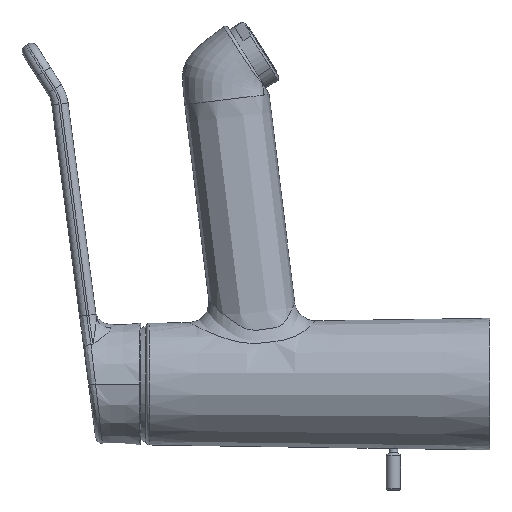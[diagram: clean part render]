
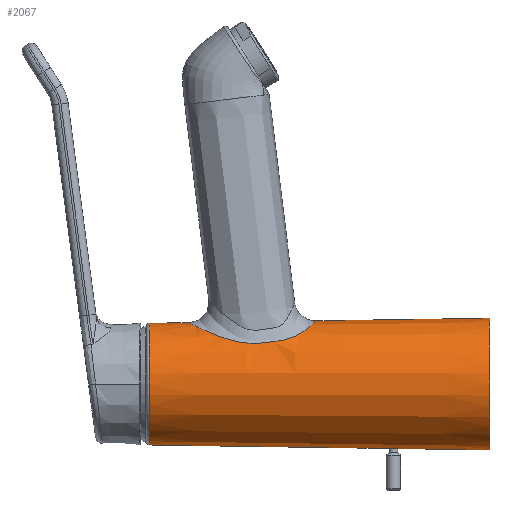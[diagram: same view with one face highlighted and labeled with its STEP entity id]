
A CAD part, left-side view. The second image highlights one B-rep face of the part: STEP entity #2067.
In plain terms, the highlighted conical face has half-angle 0.836 degrees and reference radius 22.132 mm.
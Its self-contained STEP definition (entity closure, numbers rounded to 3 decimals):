
#1=CARTESIAN_POINT('',(0.,35.199,-22.487));
#25=CARTESIAN_POINT('',(0.,32.199,-22.53));
#27=DIRECTION('',(0.,1.,0.015));
#28=VECTOR('',#27,32.203);
#29=CARTESIAN_POINT('',(0.,0.,-23.));
#30=LINE('',#29,#28);
#85=DIRECTION('',(0.,1.,0.015));
#86=VECTOR('',#85,83.824);
#87=CARTESIAN_POINT('',(0.,35.199,-22.487));
#88=LINE('',#87,#86);
#107=CARTESIAN_POINT('',(0.,32.199,-22.53));
#108=CARTESIAN_POINT('',(-0.071,32.199,
-22.53));
#109=CARTESIAN_POINT('',(-0.213,32.209,
-22.53));
#110=CARTESIAN_POINT('',(-0.422,32.255,
-22.526));
#111=CARTESIAN_POINT('',(-0.622,32.329,
-22.52));
#112=CARTESIAN_POINT('',(-0.811,32.431,
-22.513));
#113=CARTESIAN_POINT('',(-0.982,32.559,
-22.504));
#114=CARTESIAN_POINT('',(-1.135,32.711,-22.495));
#115=CARTESIAN_POINT('',(-1.263,32.881,-22.485));
#116=CARTESIAN_POINT('',(-1.367,33.069,-22.476));
#117=CARTESIAN_POINT('',(-1.442,33.269,-22.469));
#118=CARTESIAN_POINT('',(-1.489,33.479,-22.462));
#119=CARTESIAN_POINT('',(-1.505,33.696,-22.458));
#120=CARTESIAN_POINT('',(-1.49,33.912,-22.456));
#121=CARTESIAN_POINT('',(-1.445,34.12,-22.456));
#122=CARTESIAN_POINT('',(-1.371,34.32,-22.458));
#123=CARTESIAN_POINT('',(-1.269,34.509,-22.461));
#124=CARTESIAN_POINT('',(-1.142,34.68,-22.465));
#125=CARTESIAN_POINT('',(-0.99,34.833,
-22.47));
#126=CARTESIAN_POINT('',(-0.82,34.961,
-22.475));
#127=CARTESIAN_POINT('',(-0.631,35.066,
-22.48));
#128=CARTESIAN_POINT('',(-0.427,35.143,
-22.484));
#129=CARTESIAN_POINT('',(-0.214,35.189,
-22.486));
#130=CARTESIAN_POINT('',(-0.071,35.199,
-22.487));
#131=CARTESIAN_POINT('',(0.,35.199,-22.487));
#133=CARTESIAN_POINT('',(0.,119.015,0.));
#134=DIRECTION('',(0.,-1.,0.));
#135=DIRECTION('',(0.,0.,1.));
#136=AXIS2_PLACEMENT_3D('',#133,#134,#135);
#138=DIRECTION('',(0.,1.,-0.015));
#139=VECTOR('',#138,13.964);
#140=CARTESIAN_POINT('',(0.,105.052,
21.468));
#141=LINE('',#140,#139);
#142=CARTESIAN_POINT('',(0.,61.099,22.109));
#143=CARTESIAN_POINT('',(-0.544,61.117,22.109));
#144=CARTESIAN_POINT('',(-1.595,61.161,22.068));
#145=CARTESIAN_POINT('',(-3.037,61.283,21.912));
#146=CARTESIAN_POINT('',(-4.405,61.467,21.674));
#147=CARTESIAN_POINT('',(-5.709,61.719,21.363));
#148=CARTESIAN_POINT('',(-6.934,62.037,20.991));
#149=CARTESIAN_POINT('',(-8.059,62.416,20.578));
#150=CARTESIAN_POINT('',(-9.096,62.86,20.133));
#151=CARTESIAN_POINT('',(-10.05,63.368,19.665));
#152=CARTESIAN_POINT('',(-10.926,63.944,19.181));
#153=CARTESIAN_POINT('',(-11.727,64.586,18.69));
#154=CARTESIAN_POINT('',(-12.455,65.295,18.199));
#155=CARTESIAN_POINT('',(-13.098,66.056,17.727));
#156=CARTESIAN_POINT('',(-13.7,66.921,17.25));
#157=CARTESIAN_POINT('',(-14.242,67.873,16.786));
#158=CARTESIAN_POINT('',(-14.718,68.905,16.349));
#159=CARTESIAN_POINT('',(-15.122,70.003,15.953));
#160=CARTESIAN_POINT('',(-15.454,71.164,15.607));
#161=CARTESIAN_POINT('',(-15.731,72.44,15.301));
#162=CARTESIAN_POINT('',(-15.967,74.008,15.02));
#163=CARTESIAN_POINT('',(-16.126,75.616,14.814));
#164=CARTESIAN_POINT('',(-16.251,77.011,14.647));
#165=CARTESIAN_POINT('',(-16.387,78.65,14.459));
#166=CARTESIAN_POINT('',(-16.488,80.561,14.3));
#167=CARTESIAN_POINT('',(-16.5,82.474,14.244));
#168=CARTESIAN_POINT('',(-16.424,84.171,14.293));
#169=CARTESIAN_POINT('',(-16.271,85.804,14.432));
#170=CARTESIAN_POINT('',(-16.036,87.39,14.659));
#171=CARTESIAN_POINT('',(-15.721,88.928,14.965));
#172=CARTESIAN_POINT('',(-15.28,90.579,15.384));
#173=CARTESIAN_POINT('',(-14.678,92.361,15.927));
#174=CARTESIAN_POINT('',(-13.907,94.216,16.574));
#175=CARTESIAN_POINT('',(-12.968,96.075,17.287));
#176=CARTESIAN_POINT('',(-11.97,97.73,17.962));
#177=CARTESIAN_POINT('',(-10.989,99.105,18.555));
#178=CARTESIAN_POINT('',(-9.967,100.321,19.103));
#179=CARTESIAN_POINT('',(-8.927,101.372,19.594));
#180=CARTESIAN_POINT('',(-7.895,102.258,20.017));
#181=CARTESIAN_POINT('',(-6.883,102.991,20.375));
#182=CARTESIAN_POINT('',(-5.899,103.585,20.672));
#183=CARTESIAN_POINT('',(-4.945,104.057,20.913));
#184=CARTESIAN_POINT('',(-4.021,104.419,21.104));
#185=CARTESIAN_POINT('',(-3.13,104.683,21.251));
#186=CARTESIAN_POINT('',(-2.182,104.88,21.367));
#187=CARTESIAN_POINT('',(-1.175,105.007,21.445));
#188=CARTESIAN_POINT('',(-0.405,105.045,21.468));
#189=CARTESIAN_POINT('',(0.,105.052,
21.468));
#191=DIRECTION('',(0.,1.,-0.015));
#192=VECTOR('',#191,61.106);
#193=CARTESIAN_POINT('',(0.,0.,23.));
#194=LINE('',#193,#192);
#1696=CARTESIAN_POINT('',(0.,0.,0.));
#1697=DIRECTION('',(0.,1.,0.));
#1698=DIRECTION('',(0.,0.,-1.));
#1699=AXIS2_PLACEMENT_3D('',#1696,#1697,#1698);
#1779=CARTESIAN_POINT('',(0.,0.,23.));
#1780=CARTESIAN_POINT('',(0.,0.,-23.));
#1781=VERTEX_POINT('',#1779);
#1782=VERTEX_POINT('',#1780);
#1783=VERTEX_POINT('',#142);
#1784=VERTEX_POINT('',#189);
#1787=CARTESIAN_POINT('',(0.,119.015,21.264));
#1788=CARTESIAN_POINT('',(0.,119.015,-21.264));
#1789=VERTEX_POINT('',#1787);
#1790=VERTEX_POINT('',#1788);
#1890=VERTEX_POINT('',#1);
#1891=VERTEX_POINT('',#25);
#2049=CARTESIAN_POINT('',(0.,59.507,0.));
#2050=DIRECTION('',(0.,-1.,0.));
#2051=DIRECTION('',(0.,0.,1.));
#2052=AXIS2_PLACEMENT_3D('',#2049,#2050,#2051);
#2053=CONICAL_SURFACE('',#2052,22.132,0.836);
#2054=ORIENTED_EDGE('',*,*,#2040,.T.);
#2055=ORIENTED_EDGE('',*,*,#2015,.T.);
#2057=ORIENTED_EDGE('',*,*,#2056,.F.);
#2058=ORIENTED_EDGE('',*,*,#2011,.F.);
#2060=ORIENTED_EDGE('',*,*,#2059,.F.);
#2061=ORIENTED_EDGE('',*,*,#2007,.F.);
#2063=ORIENTED_EDGE('',*,*,#2062,.F.);
#2064=ORIENTED_EDGE('',*,*,#2003,.T.);
#2065=EDGE_LOOP('',(#2054,#2055,#2057,#2058,#2060,#2061,#2063,#2064));
#2066=FACE_OUTER_BOUND('',#2065,.F.);
#2067=ADVANCED_FACE('',(#2066),#2053,.T.);
#132=B_SPLINE_CURVE_WITH_KNOTS('',3,(#107,#108,#109,#110,#111,#112,#113,#114,
#115,#116,#117,#118,#119,#120,#121,#122,#123,#124,#125,#126,#127,#128,#129,#130,
#131),.UNSPECIFIED.,.F.,.F.,(4,1,1,1,1,1,1,1,1,1,1,1,1,1,1,1,1,1,1,1,1,1,4),(
0.,0.045,0.091,0.136,0.182,
0.227,0.273,0.318,0.364,
0.409,0.455,0.5,0.545,0.591,
0.636,0.682,0.727,0.773,
0.818,0.864,0.909,0.955,1.),
.UNSPECIFIED.);
#137=CIRCLE('',#136,21.264);
#190=B_SPLINE_CURVE_WITH_KNOTS('',3,(#142,#143,#144,#145,#146,#147,#148,#149,
#150,#151,#152,#153,#154,#155,#156,#157,#158,#159,#160,#161,#162,#163,#164,#165,
#166,#167,#168,#169,#170,#171,#172,#173,#174,#175,#176,#177,#178,#179,#180,#181,
#182,#183,#184,#185,#186,#187,#188,#189),.UNSPECIFIED.,.F.,.F.,(4,1,1,1,1,1,1,1,
1,1,1,1,1,1,1,1,1,1,1,1,1,1,1,1,1,1,1,1,1,1,1,1,1,1,1,1,1,1,1,1,1,1,1,1,1,4),(
0.,0.022,0.044,0.067,0.089,
0.111,0.133,0.156,0.178,0.2,
0.222,0.244,0.267,0.289,
0.311,0.333,0.356,0.378,0.4,
0.422,0.444,0.467,0.489,
0.511,0.533,0.556,0.578,0.6,
0.622,0.644,0.667,0.689,
0.711,0.733,0.756,0.778,0.8,
0.822,0.844,0.867,0.889,
0.911,0.933,0.956,0.978,1.),
.UNSPECIFIED.);
#1700=CIRCLE('',#1699,23.);
#2003=EDGE_CURVE('',#1782,#1891,#30,.T.);
#2007=EDGE_CURVE('',#1781,#1783,#194,.T.);
#2011=EDGE_CURVE('',#1784,#1789,#141,.T.);
#2015=EDGE_CURVE('',#1890,#1790,#88,.T.);
#2040=EDGE_CURVE('',#1891,#1890,#132,.T.);
#2056=EDGE_CURVE('',#1789,#1790,#137,.T.);
#2059=EDGE_CURVE('',#1783,#1784,#190,.T.);
#2062=EDGE_CURVE('',#1782,#1781,#1700,.T.);
